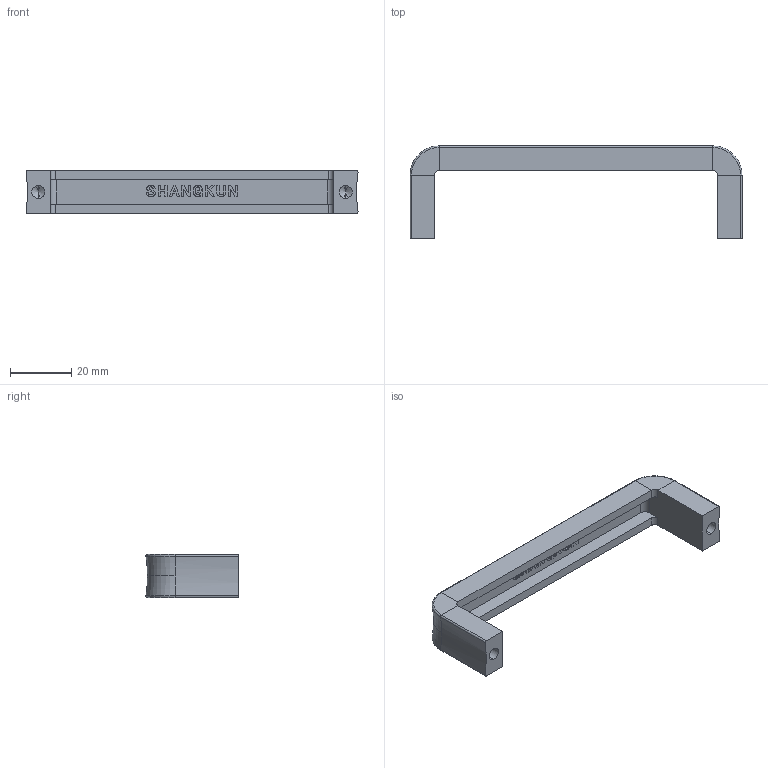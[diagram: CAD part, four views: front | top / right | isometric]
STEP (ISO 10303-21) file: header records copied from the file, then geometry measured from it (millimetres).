
FILE_DESCRIPTION (( 'STEP AP203' ), '1' );
FILE_NAME ('SK4-011.STEP', '2018-11-02T04:00:50', ( 'admin' ), ( 'Microsoft' ), 'SwSTEP 2.0', 'SolidWorks 2015', '' );
FILE_SCHEMA (( 'CONFIG_CONTROL_DESIGN' ));
Length unit declared in the file: millimetre
Products named in the file (1): SK4-011
Bounding box: 108 x 30 x 14 mm (x, y, z)
Volume: 12105.4 mm3; surface area: 7965.6 mm2
Topology: 1 solids, 1 shells, 156 faces, 407 edges, 260 vertices
Faces by surface type: plane 101, bspline 24, cylinder 19, torus 8, cone 4
Entity records: 6268 total; most frequent: CARTESIAN_POINT 2508, ORIENTED_EDGE 806, DIRECTION 673, EDGE_CURVE 403, VECTOR 303, LINE 303, VERTEX_POINT 260, AXIS2_PLACEMENT_3D 185
